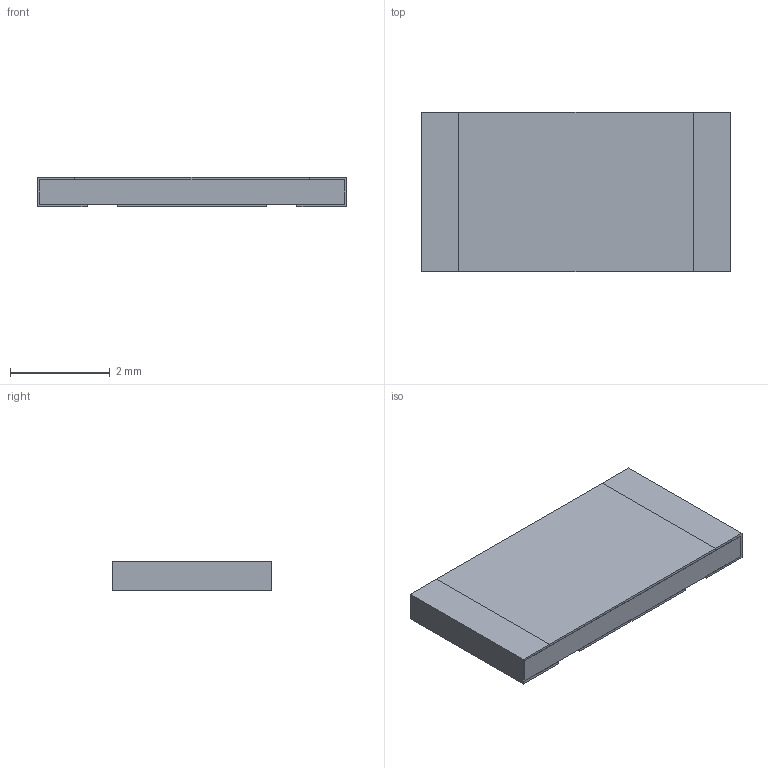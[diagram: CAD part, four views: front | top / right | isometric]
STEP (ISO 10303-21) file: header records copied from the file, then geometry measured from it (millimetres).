
FILE_DESCRIPTION(('STEP AP203'), '1');
FILE_NAME('P1-85-10', '', ('UNSPECIFIED'), ('UNSPECIFIED'), 'ASCON STEP Converter 1.6', 'ASCON Math Kernel', '');
FILE_SCHEMA(('CONFIG_CONTROL_DESIGN'));
Length unit declared in the file: millimetre
Bounding box: 6.2 x 3.2 x 0.6 mm (x, y, z)
Volume: 11.7 mm3; surface area: 130 mm2
Topology: 5 solids, 6 shells, 57 faces, 135 edges, 90 vertices
Faces by surface type: plane 53, cylinder 4
Entity records: 2143 total; most frequent: CARTESIAN_POINT 283, ORIENTED_EDGE 270, DIRECTION 259, EDGE_CURVE 135, LINE 127, VECTOR 127, VERTEX_POINT 90, AXIS2_PLACEMENT_3D 66
